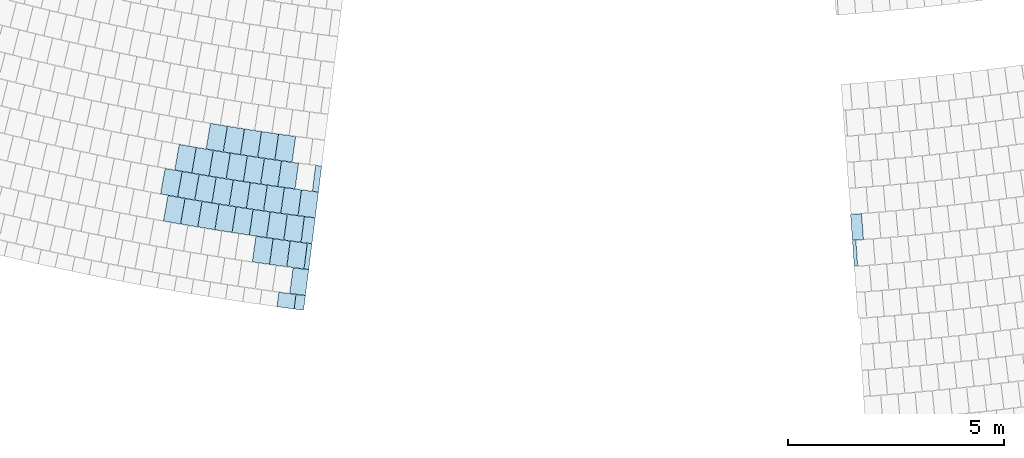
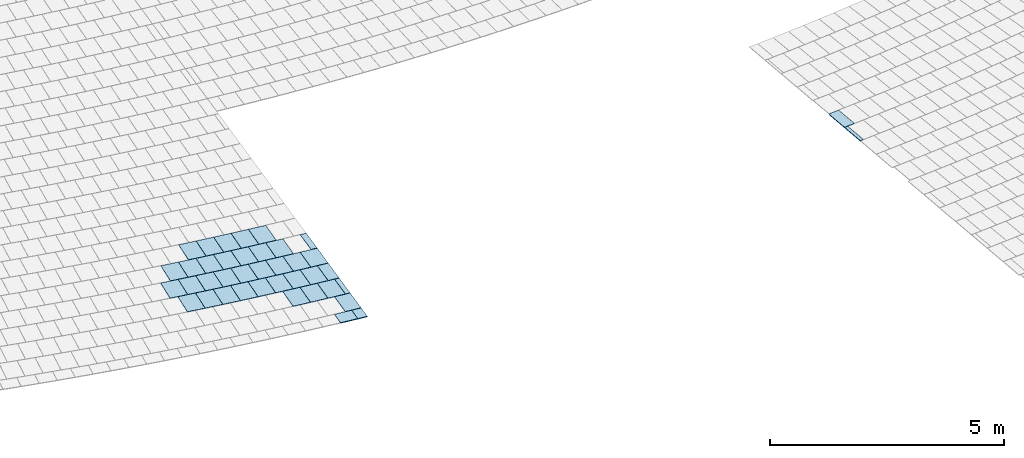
# One storey, part 33 of 438: 40 slabs.
"""IFC2X3 building model written with IfcOpenShell, lengths in millimetres."""

import ifcopenshell
import ifcopenshell.guid

model = None  # the IFC model being written
_history = None  # IfcOwnerHistory: only IFC2X3 demands one
_inside = {}  # id of a spatial element -> (the spatial element, [elements in it])
_under = {}  # id of a project, library or spatial element -> (it, [spatial elements below it])
_declared = {}  # id of a project -> (the project, [libraries it declares])
_typed = {}  # id of a type object -> (the type object, [elements of that type])
_made_of = {}  # id of a material, layer set ... -> (it, [elements and type objects made of it])


def new_model(schema):
    """Start an empty IFC model of exactly this schema.

    Asked for "IFC4X3", IfcOpenShell would pick the latest addendum, in which some entities
    have other attributes; the version numbers below select the first issue.
    IFC2X3 requires an IfcOwnerHistory on every rooted entity: one is made here for all.
    """
    global model, _history
    if schema == "IFC4X3":
        model = ifcopenshell.file(schema_version=(4, 3, 0, 0))
    else:
        model = ifcopenshell.file(schema=schema)
    _inside.clear()
    _under.clear()
    _declared.clear()
    _typed.clear()
    _made_of.clear()
    _history = None
    if model.schema == "IFC2X3":
        org = make("IfcOrganization", Name="unknown")
        user = make(
            "IfcPersonAndOrganization",
            ThePerson=make("IfcPerson", FamilyName="unknown"),
            TheOrganization=org,
        )
        app = make(
            "IfcApplication",
            ApplicationDeveloper=org,
            Version="unknown",
            ApplicationFullName="unknown",
            ApplicationIdentifier="unknown",
        )
        _history = make(
            "IfcOwnerHistory",
            OwningUser=user,
            OwningApplication=app,
            ChangeAction="ADDED",
            CreationDate=0,
        )
    return model


def make(cls, **values):
    """One entity of the class cls with the attributes given. An attribute that is None is left unset."""
    return model.create_entity(
        cls, **{name: value for name, value in values.items() if value is not None}
    )


def entity(cls, *values):
    """Any entity or typed value of the class cls, its attributes in the order of the schema. None: left unset."""
    e = model.create_entity(cls)
    for i, value in enumerate(values):
        if value is not None:
            e[i] = value
    return e


def rooted(cls, **values):
    """An entity with a GlobalId (a new one), such as an element, a storey or a relation."""
    return make(cls, GlobalId=ifcopenshell.guid.new(), OwnerHistory=_history, **values)


def si_unit(unit_type, name, prefix=None):
    """IfcSIUnit, for example si_unit("LENGTHUNIT", "METRE", prefix="MILLI")."""
    return make("IfcSIUnit", UnitType=unit_type, Prefix=prefix, Name=name)


def converted_unit(unit_type, name, factor, base, dimensions=None, offset=None):
    """IfcConversionBasedUnit, such as the inch: factor (a typed value) times the base unit."""
    return make(
        "IfcConversionBasedUnit"
        if offset is None
        else "IfcConversionBasedUnitWithOffset",
        ConversionOffset=offset,
        Dimensions=None
        if dimensions is None
        else entity("IfcDimensionalExponents", *dimensions),
        UnitType=unit_type,
        Name=name,
        ConversionFactor=make(
            "IfcMeasureWithUnit", ValueComponent=factor, UnitComponent=base
        ),
    )


def derived_unit(unit_type, elements):
    """IfcDerivedUnit: a product of units, each with its exponent."""
    return make(
        "IfcDerivedUnit",
        Elements=[
            make("IfcDerivedUnitElement", Unit=unit, Exponent=power)
            for unit, power in elements
        ],
        UnitType=unit_type,
    )


def assignment(units):
    """IfcUnitAssignment: the units of a project."""
    return None if units is None else make("IfcUnitAssignment", Units=units)


def point(xyz):
    """IfcCartesianPoint."""
    return None if xyz is None else make("IfcCartesianPoint", Coordinates=xyz)


def direction(xyz):
    """IfcDirection."""
    return None if xyz is None else make("IfcDirection", DirectionRatios=xyz)


def frame(location, z_axis=None, x_axis=None):
    """IfcAxis2Placement3D, a coordinate frame: its origin and axes. An axis left out is left unset."""
    return make(
        "IfcAxis2Placement3D",
        Location=point(location),
        Axis=direction(z_axis),
        RefDirection=direction(x_axis),
    )


def frame_2d(location, x_axis=None):
    """IfcAxis2Placement2D, a coordinate frame in the plane: its origin and x axis."""
    return make(
        "IfcAxis2Placement2D", Location=point(location), RefDirection=direction(x_axis)
    )


def origin():
    """The frame at (0, 0, 0) with its axes left unset."""
    return frame((0.0, 0.0, 0.0))


def origin_2d_with_axis():
    """The frame at (0, 0) in the plane with the x axis (1, 0) written out."""
    return frame_2d((0.0, 0.0), x_axis=(1.0, 0.0))


def place(relative_to, where):
    """IfcLocalPlacement: puts the frame where relative to a parent placement (None: the world)."""
    return make(
        "IfcLocalPlacement", PlacementRelTo=relative_to, RelativePlacement=where
    )


def context(
    kind, dimensions, precision=None, world=None, true_north=None, identifier=None
):
    """IfcGeometricRepresentationContext, for example the 3D "Model" context."""
    return make(
        "IfcGeometricRepresentationContext",
        ContextIdentifier=identifier,
        ContextType=kind,
        CoordinateSpaceDimension=dimensions,
        Precision=precision,
        WorldCoordinateSystem=world,
        TrueNorth=true_north,
    )


def subcontext(parent, identifier, kind, view, scale=None):
    """IfcGeometricRepresentationSubContext, for example "Body" below "Model"."""
    return make(
        "IfcGeometricRepresentationSubContext",
        ContextIdentifier=identifier,
        ContextType=kind,
        ParentContext=parent,
        TargetScale=scale,
        TargetView=view,
    )


def project(units=None, contexts=None):
    """IfcProject with its units and contexts."""
    return rooted(
        "IfcProject",
        Name="project",
        RepresentationContexts=contexts,
        UnitsInContext=assignment(units),
    )


def spatial(cls, under=None, at=None, **own):
    """A site, building, storey or space (cls), placed at a placement, below another one or the project."""
    s = rooted(cls, ObjectPlacement=at, **own)
    if under is not None:
        _under.setdefault(under.id(), (under, []))[1].append(s)
    return s


def polyline(points):
    """IfcPolyline through the points."""
    return make("IfcPolyline", Points=[point(p) for p in points])


def profile(cls, at=None, kind="AREA", **sizes):
    """A parametric profile (cls). Its sizes go by their IFC names, for example OverallWidth=200.0."""
    return make(cls, ProfileType=kind, Position=at, **sizes)


def rectangle(**sizes):
    """IfcRectangleProfileDef."""
    return profile("IfcRectangleProfileDef", **sizes)


def outline(outer, holes=None, kind="AREA"):
    """IfcArbitraryClosedProfileDef: a profile drawn as a closed curve; with holes, ...WithVoids."""
    if holes is None:
        return make("IfcArbitraryClosedProfileDef", ProfileType=kind, OuterCurve=outer)
    return make(
        "IfcArbitraryProfileDefWithVoids",
        ProfileType=kind,
        OuterCurve=outer,
        InnerCurves=holes,
    )


def extrude(swept, where, along, depth):
    """IfcExtrudedAreaSolid: the profile swept, set in the frame where, extruded along a direction by depth."""
    return make(
        "IfcExtrudedAreaSolid",
        SweptArea=swept,
        Position=where,
        ExtrudedDirection=direction(along),
        Depth=depth,
    )


def shape(context_of_items, identifier, shape_type, items):
    """IfcShapeRepresentation: the items that make up one representation, for example the "Body"."""
    return make(
        "IfcShapeRepresentation",
        ContextOfItems=context_of_items,
        RepresentationIdentifier=identifier,
        RepresentationType=shape_type,
        Items=items,
    )


def material(Name=None, Category=None):
    """IfcMaterial."""
    return make("IfcMaterial", Name=Name, Category=Category)


def layer(
    of_material, thickness, ventilated=None, Name=None, Category=None, Priority=None
):
    """IfcMaterialLayer: one layer of a wall or slab, of a material (None: an air gap)."""
    return make(
        "IfcMaterialLayer",
        Material=of_material,
        LayerThickness=thickness,
        IsVentilated=ventilated,
        Name=Name,
        Category=Category,
        Priority=Priority,
    )


def layer_set(layers, Name=None):
    """IfcMaterialLayerSet."""
    return make("IfcMaterialLayerSet", MaterialLayers=layers, LayerSetName=Name)


def layer_usage(for_layer_set, set_direction, sense, offset, extent=None):
    """IfcMaterialLayerSetUsage: how a layer set lies in its element."""
    return make(
        "IfcMaterialLayerSetUsage",
        ForLayerSet=for_layer_set,
        LayerSetDirection=set_direction,
        DirectionSense=sense,
        OffsetFromReferenceLine=offset,
        ReferenceExtent=extent,
    )


def made_of(thing, what):
    """Note that an element or type object is made of a material, layer set ...; save() writes the relation."""
    if what is not None:
        _made_of.setdefault(what.id(), (what, []))[1].append(thing)
    return thing


def type_object(cls, material=None, **own):
    """A type object (cls), such as IfcWallType, which elements share."""
    return made_of(rooted(cls, **own), material)


def element(
    cls,
    number,
    at=None,
    inside=None,
    cuts=None,
    type_object=None,
    material=None,
    context=None,
    identifier="Body",
    shape_type=None,
    held_by="IfcProductDefinitionShape",
    body=None,
    shapes=None,
    **own,
):
    """One element of the class cls, such as IfcWall. Its Tag is "e" and its number.

    at: its placement. inside: the storey or other place that contains it. cuts: it is an
    opening in that element (IfcRelVoidsElement). A single representation is given by context,
    identifier, shape_type and body (its items); several are given by shapes. held_by: the class
    of the entity that holds the representations. save() writes the other relations.
    """
    e = rooted(cls, Tag="e%d" % number, ObjectPlacement=at, **own)
    if body is not None:
        shapes = [shape(context, identifier, shape_type, body)]
    if shapes is not None:
        e.Representation = make(held_by, Representations=shapes)
    if inside is not None:
        _inside.setdefault(inside.id(), (inside, []))[1].append(e)
    if cuts is not None:
        rooted(
            "IfcRelVoidsElement", RelatingBuildingElement=cuts, RelatedOpeningElement=e
        )
    if type_object is not None:
        _typed.setdefault(type_object.id(), (type_object, []))[1].append(e)
    return made_of(e, material)


def aggregate(whole, parts):
    """IfcRelAggregates: a whole, such as a stair, and the parts it consists of."""
    return rooted("IfcRelAggregates", RelatingObject=whole, RelatedObjects=parts)


def save(model, path):
    """Write the relations noted so far, then the file.

    IfcRelAggregates (storeys below a building ...), IfcRelContainedInSpatialStructure (elements
    in a storey), IfcRelDefinesByType, IfcRelAssociatesMaterial and IfcRelDeclares: one each for
    every whole, place, type object, material and project.
    """
    for whole, parts in _under.values():
        aggregate(whole, parts)
    for where, things in _inside.values():
        rooted(
            "IfcRelContainedInSpatialStructure",
            RelatedElements=things,
            RelatingStructure=where,
        )
    for kind, things in _typed.values():
        rooted("IfcRelDefinesByType", RelatedObjects=things, RelatingType=kind)
    for what, things in _made_of.values():
        rooted("IfcRelAssociatesMaterial", RelatedObjects=things, RelatingMaterial=what)
    for by, libraries in _declared.values():
        rooted("IfcRelDeclares", RelatingContext=by, RelatedDefinitions=libraries)
    model.write(path)


model = new_model("IFC2X3")

# Units and contexts
model_context = context("Model", 3, precision=0.01, world=origin(), true_north=direction((6.123031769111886e-17, 1.0)))
body_context = subcontext(model_context, "Body", "Model", "MODEL_VIEW")
ifc_project = project(units=[si_unit("LENGTHUNIT", "METRE", prefix="MILLI"), si_unit("AREAUNIT", "SQUARE_METRE"), si_unit("VOLUMEUNIT", "CUBIC_METRE"), converted_unit("PLANEANGLEUNIT", "DEGREE", entity("IfcRatioMeasure", 0.017453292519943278), si_unit("PLANEANGLEUNIT", "RADIAN"), dimensions=[0, 0, 0, 0, 0, 0, 0]), si_unit("MASSUNIT", "GRAM", prefix="KILO"), derived_unit("MASSDENSITYUNIT", [(si_unit("MASSUNIT", "GRAM", prefix="KILO"), 1), (si_unit("LENGTHUNIT", "METRE"), -3)]), derived_unit("MOMENTOFINERTIAUNIT", [(si_unit("LENGTHUNIT", "METRE"), 4)]), si_unit("TIMEUNIT", "SECOND"), si_unit("FREQUENCYUNIT", "HERTZ"), si_unit("THERMODYNAMICTEMPERATUREUNIT", "DEGREE_CELSIUS"), derived_unit("THERMALTRANSMITTANCEUNIT", [(si_unit("MASSUNIT", "GRAM", prefix="KILO"), 1), (si_unit("THERMODYNAMICTEMPERATUREUNIT", "KELVIN"), -1), (si_unit("TIMEUNIT", "SECOND"), -3)]), derived_unit("THERMALCONDUCTANCEUNIT", [(si_unit("MASSUNIT", "GRAM", prefix="KILO"), 1), (si_unit("LENGTHUNIT", "METRE"), 1), (si_unit("THERMODYNAMICTEMPERATUREUNIT", "KELVIN"), -1), (si_unit("TIMEUNIT", "SECOND"), -3)]), derived_unit("VOLUMETRICFLOWRATEUNIT", [(si_unit("LENGTHUNIT", "METRE"), 3), (si_unit("TIMEUNIT", "SECOND"), -1)]), derived_unit("MASSFLOWRATEUNIT", [(si_unit("MASSUNIT", "GRAM", prefix="KILO"), 1), (si_unit("TIMEUNIT", "SECOND"), -1)]), derived_unit("ROTATIONALFREQUENCYUNIT", [(si_unit("TIMEUNIT", "SECOND"), -1)]), si_unit("ELECTRICCURRENTUNIT", "AMPERE"), si_unit("ELECTRICVOLTAGEUNIT", "VOLT"), si_unit("POWERUNIT", "WATT"), converted_unit("FORCEUNIT", "KIP", entity("IfcRatioMeasure", 2.088543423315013e-05), si_unit("FORCEUNIT", "NEWTON"), dimensions=[1, 1, -2, 0, 0, 0, 0]), si_unit("ILLUMINANCEUNIT", "LUX"), si_unit("LUMINOUSFLUXUNIT", "LUMEN"), si_unit("LUMINOUSINTENSITYUNIT", "CANDELA"), derived_unit("USERDEFINED", [(si_unit("MASSUNIT", "GRAM", prefix="KILO"), -1), (si_unit("LENGTHUNIT", "METRE"), -2), (si_unit("TIMEUNIT", "SECOND"), 3), (si_unit("LUMINOUSFLUXUNIT", "LUMEN"), 1)]), derived_unit("USERDEFINED", [(si_unit("MASSUNIT", "GRAM", prefix="KILO"), 1), (si_unit("LENGTHUNIT", "METRE"), 3), (si_unit("TIMEUNIT", "SECOND"), -3), (si_unit("ELECTRICCURRENTUNIT", "AMPERE"), -2)]), derived_unit("USERDEFINED", [(si_unit("LENGTHUNIT", "METRE"), 2), (si_unit("TIMEUNIT", "SECOND"), -2)]), derived_unit("SOUNDPOWERUNIT", [(si_unit("MASSUNIT", "GRAM", prefix="KILO"), 1), (si_unit("LENGTHUNIT", "METRE"), 2), (si_unit("TIMEUNIT", "SECOND"), -3)]), derived_unit("SOUNDPRESSUREUNIT", [(si_unit("MASSUNIT", "GRAM", prefix="KILO"), 1), (si_unit("LENGTHUNIT", "METRE"), -1), (si_unit("TIMEUNIT", "SECOND"), -2)]), derived_unit("LINEARVELOCITYUNIT", [(si_unit("LENGTHUNIT", "METRE"), 1), (si_unit("TIMEUNIT", "SECOND"), -1)]), si_unit("PRESSUREUNIT", "PASCAL"), derived_unit("USERDEFINED", [(si_unit("LENGTHUNIT", "METRE"), -2), (si_unit("MASSUNIT", "GRAM", prefix="KILO"), 1), (si_unit("TIMEUNIT", "SECOND"), -2)]), derived_unit("LINEARFORCEUNIT", [(si_unit("MASSUNIT", "GRAM", prefix="KILO"), 1), (si_unit("LENGTHUNIT", "METRE"), 1), (si_unit("TIMEUNIT", "SECOND"), -2), (si_unit("LENGTHUNIT", "METRE"), -1)]), derived_unit("PLANARFORCEUNIT", [(si_unit("MASSUNIT", "GRAM", prefix="KILO"), 1), (si_unit("LENGTHUNIT", "METRE"), 1), (si_unit("TIMEUNIT", "SECOND"), -2), (si_unit("LENGTHUNIT", "METRE"), -2)]), derived_unit("SPECIFICHEATCAPACITYUNIT", [(si_unit("LENGTHUNIT", "METRE"), 2), (si_unit("TIMEUNIT", "SECOND"), -2), (si_unit("THERMODYNAMICTEMPERATUREUNIT", "KELVIN"), -1)]), derived_unit("VAPORPERMEABILITYUNIT", [(si_unit("TIMEUNIT", "SECOND"), 1), (si_unit("LENGTHUNIT", "METRE"), -1)]), derived_unit("DYNAMICVISCOSITYUNIT", [(si_unit("MASSUNIT", "GRAM", prefix="KILO"), 1), (si_unit("LENGTHUNIT", "METRE"), -1), (si_unit("TIMEUNIT", "SECOND"), -1)]), derived_unit("THERMALEXPANSIONCOEFFICIENTUNIT", [(si_unit("THERMODYNAMICTEMPERATUREUNIT", "KELVIN"), -1)])], contexts=[model_context])

# Site, building, storey
site_placement = place(None, frame((0.0, 0.0, 0.0), z_axis=(0.0, 0.0, 1.0), x_axis=(0.8191520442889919, 0.5735764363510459, 0.0)))
site = spatial("IfcSite", under=ifc_project, at=site_placement, Name="Default", CompositionType="ELEMENT")
building_placement = place(site_placement, origin())
building = spatial("IfcBuilding", under=site, at=building_placement, CompositionType="ELEMENT")
storey_placement = place(building_placement, origin())
storey = spatial("IfcBuildingStorey", under=building, at=storey_placement, Name="PLAN", CompositionType="ELEMENT", Elevation=0.0)

# Slabs
ifc_material = material(Name="Paint-01")
ifc_layer = layer(ifc_material, 20.00000000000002)
ifc_layer_set = layer_set([ifc_layer], Name="Floor:Slab-179:1000")
ifc_layer_usage = layer_usage(ifc_layer_set, "AXIS3", "POSITIVE", 0.0)
slab_type = type_object("IfcSlabType", Name="Floor:Slab-179:1000", PredefinedType="FLOOR", material=ifc_layer_set)
slab_1_placement = place(storey_placement, origin())
element("IfcSlab", 1, at=slab_1_placement, inside=storey, type_object=slab_type, material=ifc_layer_usage, Name="Floor:Slab-179:1000", ObjectType="Floor:Slab-179:1000", PredefinedType="FLOOR", context=body_context, shape_type="SweptSolid", body=[
    extrude(outline(polyline([(-300.0, -39.397015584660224), (300.0, -39.397015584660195), (300.0, 38.82739403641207), (-300.0, 39.96663713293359), (-300.0, -39.397015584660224)])), frame((-73040.18399397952, -122760.55751204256, 20.0), z_axis=(0.0, 0.0, -1.0), x_axis=(-0.5146982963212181, -0.8573713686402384, 0.0)), (0.0, 0.0, 1.0), 20.00000000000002),
])
slab_2_placement = place(storey_placement, origin())
element("IfcSlab", 2, at=slab_2_placement, inside=storey, type_object=slab_type, material=ifc_layer_usage, Name="Floor:Slab-179:1000", ObjectType="Floor:Slab-179:1000", PredefinedType="FLOOR", context=body_context, shape_type="SweptSolid", body=[
    extrude(outline(polyline([(-300.0000006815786, -128.00995414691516), (299.99999931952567, -128.0099541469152), (300.0000006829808, 128.27574525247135), (-299.9999993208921, 127.74416304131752), (-300.0000006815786, -128.00995414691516)])), frame((-72653.57342718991, -122286.48309528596, 20.0), z_axis=(0.0, 0.0, -1.0), x_axis=(-0.5123087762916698, -0.8588013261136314, 0.0)), (0.0, 0.0, 1.0), 20.00000000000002),
])
slab_3_placement = place(storey_placement, origin())
element("IfcSlab", 3, at=slab_3_placement, inside=storey, type_object=slab_type, material=ifc_layer_usage, Name="Floor:Slab-179:1000", ObjectType="Floor:Slab-179:1000", PredefinedType="FLOOR", context=body_context, shape_type="SweptSolid", body=[
    extrude(outline(polyline([(-299.999997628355, -200.00000294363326), (300.0, -200.0000029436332), (299.9999976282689, 200.0000029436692), (-300.0, 200.00000294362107), (-299.999997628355, -200.00000294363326)])), frame((-83626.46695168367, -112073.13883042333, 520.0), z_axis=(0.0, 0.0, -1.0), x_axis=(-0.7004343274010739, -0.7137168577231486, 0.0)), (0.0, 0.0, 1.0), 20.000000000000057),
])
slab_4_placement = place(storey_placement, origin())
element("IfcSlab", 4, at=slab_4_placement, inside=storey, type_object=slab_type, material=ifc_layer_usage, Name="Floor:Slab-179:1000", ObjectType="Floor:Slab-179:1000", PredefinedType="FLOOR", context=body_context, shape_type="SweptSolid", body=[
    extrude(outline(polyline([(-299.9999976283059, -200.00000294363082), (300.0, -200.0000029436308), (299.99999762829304, 200.00000294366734), (-300.0, 200.00000294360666), (-299.9999976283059, -200.00000294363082)])), frame((-83338.67598834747, -112353.74318607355, 520.0), z_axis=(0.0, 0.0, -1.0), x_axis=(-0.6957793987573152, -0.7182555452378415, 0.0)), (0.0, 0.0, 1.0), 20.000000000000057),
])
slab_5_placement = place(storey_placement, origin())
element("IfcSlab", 5, at=slab_5_placement, inside=storey, type_object=slab_type, material=ifc_layer_usage, Name="Floor:Slab-179:1000", ObjectType="Floor:Slab-179:1000", PredefinedType="FLOOR", context=body_context, shape_type="SweptSolid", body=[
    extrude(outline(polyline([(-299.9999976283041, -200.00000294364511), (300.0, -200.00000294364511), (299.9999976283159, 200.0000029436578), (-300.0, 200.00000294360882), (-299.9999976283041, -200.00000294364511)])), frame((-82464.44278382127, -113184.24744115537, 520.0), z_axis=(0.0, 0.0, -1.0), x_axis=(-0.68163895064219, -0.7316886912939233, 0.0)), (0.0, 0.0, 1.0), 20.000000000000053),
])
slab_6_placement = place(storey_placement, origin())
element("IfcSlab", 6, at=slab_6_placement, inside=storey, type_object=slab_type, material=ifc_layer_usage, Name="Floor:Slab-179:1000", ObjectType="Floor:Slab-179:1000", PredefinedType="FLOOR", context=body_context, shape_type="SweptSolid", body=[
    extrude(outline(polyline([(-299.99999762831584, -200.0000029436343), (300.0, -200.00000294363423), (299.9999976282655, 200.0000029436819), (-300.0, 200.00000294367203), (-299.99999762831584, -200.0000029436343)])), frame((-82757.6516250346, -112909.3092327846, 520.0), z_axis=(0.0, 0.0, -1.0), x_axis=(-0.6863815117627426, -0.7272416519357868, 0.0)), (0.0, 0.0, 1.0), 20.000000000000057),
])
slab_7_placement = place(storey_placement, origin())
element("IfcSlab", 7, at=slab_7_placement, inside=storey, type_object=slab_type, material=ifc_layer_usage, Name="Floor:Slab-179:1000", ObjectType="Floor:Slab-179:1000", PredefinedType="FLOOR", context=body_context, shape_type="SweptSolid", body=[
    extrude(outline(polyline([(-299.9999976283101, -200.0000029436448), (300.0, -200.00000294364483), (299.99999762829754, 200.00000294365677), (-300.0, 200.00000294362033), (-299.9999976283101, -200.0000029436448)])), frame((-83049.06679905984, -112632.47058061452, 520.0), z_axis=(0.0, 0.0, -1.0), x_axis=(-0.6910950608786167, -0.7227638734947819, 0.0)), (0.0, 0.0, 1.0), 20.000000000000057),
])
slab_8_placement = place(storey_placement, origin())
element("IfcSlab", 8, at=slab_8_placement, inside=storey, type_object=slab_type, material=ifc_layer_usage, Name="Floor:Slab-179:1000", ObjectType="Floor:Slab-179:1000", PredefinedType="FLOOR", context=body_context, shape_type="SweptSolid", body=[
    extrude(outline(polyline([(-299.99999762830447, -200.00000294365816), (300.0, -200.00000294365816), (299.99999762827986, 200.00000294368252), (-300.0, 200.00000294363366), (-299.99999762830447, -200.00000294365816)])), frame((-84215.92465659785, -112341.71920835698, 520.0), z_axis=(0.0, 0.0, -1.0), x_axis=(-0.7030884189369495, -0.7111024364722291, 0.0)), (0.0, 0.0, 1.0), 20.000000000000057),
])
slab_9_placement = place(storey_placement, origin())
element("IfcSlab", 9, at=slab_9_placement, inside=storey, type_object=slab_type, material=ifc_layer_usage, Name="Floor:Slab-179:1000", ObjectType="Floor:Slab-179:1000", PredefinedType="FLOOR", context=body_context, shape_type="SweptSolid", body=[
    extrude(outline(polyline([(-299.99999762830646, -200.00000294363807), (300.0, -200.00000294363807), (299.9999976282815, 200.00000294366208), (-300.0, 200.0000029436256), (-299.99999762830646, -200.00000294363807)])), frame((-83640.67491337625, -112903.20818490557, 520.0), z_axis=(0.0, 0.0, -1.0), x_axis=(-0.6938741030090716, -0.720096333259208, 0.0)), (0.0, 0.0, 1.0), 20.000000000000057),
])
slab_10_placement = place(storey_placement, origin())
element("IfcSlab", 10, at=slab_10_placement, inside=storey, type_object=slab_type, material=ifc_layer_usage, Name="Floor:Slab-179:1000", ObjectType="Floor:Slab-179:1000", PredefinedType="FLOOR", context=body_context, shape_type="SweptSolid", body=[
    extrude(rectangle(XDim=599.9998189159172, YDim=399.9998869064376, at=origin_2d_with_axis()), frame((-84500.55375182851, -112058.26329058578, 520.0), z_axis=(0.0, 0.0, -1.0), x_axis=(-0.7071067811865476, -0.7071067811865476, 0.0)), (0.0, 0.0, 1.0), 19.999999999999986),
])
slab_11_placement = place(storey_placement, origin())
element("IfcSlab", 11, at=slab_11_placement, inside=storey, type_object=slab_type, material=ifc_layer_usage, Name="Floor:Slab-179:1000", ObjectType="Floor:Slab-179:1000", PredefinedType="FLOOR", context=body_context, shape_type="SweptSolid", body=[
    extrude(outline(polyline([(-299.9999976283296, -200.0000029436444), (300.0, -200.00000294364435), (299.99999762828, 200.00000294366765), (-300.0, 200.00000294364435), (-299.9999976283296, -200.0000029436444)])), frame((-83350.35080353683, -113181.16343256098, 520.0), z_axis=(0.0, 0.0, -1.0), x_axis=(-0.6892237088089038, -0.7245486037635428, 0.0)), (0.0, 0.0, 1.0), 20.000000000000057),
])
slab_12_placement = place(storey_placement, origin())
element("IfcSlab", 12, at=slab_12_placement, inside=storey, type_object=slab_type, material=ifc_layer_usage, Name="Floor:Slab-179:1000", ObjectType="Floor:Slab-179:1000", PredefinedType="FLOOR", context=body_context, shape_type="SweptSolid", body=[
    extrude(outline(polyline([(-299.99999762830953, -200.00000294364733), (300.0, -200.00000294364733), (299.9999976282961, 200.00000294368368), (-300.0, 200.00000294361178), (-299.99999762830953, -200.00000294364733)])), frame((-83058.24322154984, -113457.24379948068, 520.0), z_axis=(0.0, 0.0, -1.0), x_axis=(-0.6845447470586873, -0.728970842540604, 0.0)), (0.0, 0.0, 1.0), 19.99999999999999),
])
slab_13_placement = place(storey_placement, origin())
element("IfcSlab", 13, at=slab_13_placement, inside=storey, type_object=slab_type, material=ifc_layer_usage, Name="Floor:Slab-179:1000", ObjectType="Floor:Slab-179:1000", PredefinedType="FLOOR", context=body_context, shape_type="SweptSolid", body=[
    extrude(outline(polyline([(-299.9999976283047, -200.0000029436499), (300.0, -200.00000294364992), (299.99999762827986, 200.00000294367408), (-300.0, 200.0000029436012), (-299.9999976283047, -200.0000029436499)])), frame((-83929.20351745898, -112623.38957744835, 520.0), z_axis=(0.0, 0.0, -1.0), x_axis=(-0.6984957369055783, -0.7156142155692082, 0.0)), (0.0, 0.0, 1.0), 20.000000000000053),
])
slab_14_placement = place(storey_placement, origin())
element("IfcSlab", 14, at=slab_14_placement, inside=storey, type_object=slab_type, material=ifc_layer_usage, Name="Floor:Slab-179:1000", ObjectType="Floor:Slab-179:1000", PredefinedType="FLOOR", context=body_context, shape_type="SweptSolid", body=[
    extrude(outline(polyline([(-299.99999762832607, -200.00000294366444), (300.0, -200.00000294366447), (299.99999762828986, 200.0000029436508), (-300.0, 200.00000294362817), (-299.99999762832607, -200.00000294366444)])), frame((-82764.36427494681, -113731.43784244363, 520.0), z_axis=(0.0, 0.0, -1.0), x_axis=(-0.6798374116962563, -0.7333628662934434, 0.0)), (0.0, 0.0, 1.0), 20.000000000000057),
])
slab_15_placement = place(storey_placement, origin())
element("IfcSlab", 15, at=slab_15_placement, inside=storey, type_object=slab_type, material=ifc_layer_usage, Name="Floor:Slab-179:1000", ObjectType="Floor:Slab-179:1000", PredefinedType="FLOOR", context=body_context, shape_type="SweptSolid", body=[
    extrude(outline(polyline([(-300.06706613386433, -70.26634917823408), (299.9332034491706, -70.26634917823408), (300.066793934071, 69.98058642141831), (-299.9329312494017, 70.55211193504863), (-300.06706613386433, -70.26634917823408)])), frame((-82267.61063723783, -114187.15614575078, 520.0), z_axis=(0.0, 0.0, -1.0), x_axis=(-0.6710449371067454, -0.7414166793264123, 0.0)), (0.0, 0.0, 1.0), 20.000000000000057),
])
slab_16_placement = place(storey_placement, origin())
element("IfcSlab", 16, at=slab_16_placement, inside=storey, type_object=slab_type, material=ifc_layer_usage, Name="Floor:Slab-179:1000", ObjectType="Floor:Slab-179:1000", PredefinedType="FLOOR", context=body_context, shape_type="SweptSolid", body=[
    extrude(rectangle(XDim=599.99878156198, YDim=399.99919534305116, at=frame_2d((-1.2249756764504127e-11, 1.2249756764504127e-11), x_axis=(1.0, 0.0))), frame((-84805.48135254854, -112609.5680734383, 520.0), z_axis=(0.0, 0.0, -1.0), x_axis=(-0.7071067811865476, -0.7071067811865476, 0.0)), (0.0, 0.0, 1.0), 19.999999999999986),
])
slab_17_placement = place(storey_placement, origin())
element("IfcSlab", 17, at=slab_17_placement, inside=storey, type_object=slab_type, material=ifc_layer_usage, Name="Floor:Slab-179:1000", ObjectType="Floor:Slab-179:1000", PredefinedType="FLOOR", context=body_context, shape_type="SweptSolid", body=[
    extrude(outline(polyline([(-299.9999976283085, -200.0000029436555), (300.0, -200.00000294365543), (299.9999976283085, 200.0000029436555), (-300.0, 200.00000294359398), (-299.9999976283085, -200.0000029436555)])), frame((-85088.62934820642, -112325.18290119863, 520.0), z_axis=(0.0, 0.0, -1.0), x_axis=(-0.71018505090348, -0.7040150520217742, 0.0)), (0.0, 0.0, 1.0), 20.000000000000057),
])
slab_18_placement = place(storey_placement, origin())
element("IfcSlab", 18, at=slab_18_placement, inside=storey, type_object=slab_type, material=ifc_layer_usage, Name="Floor:Slab-179:1000", ObjectType="Floor:Slab-179:1000", PredefinedType="FLOOR", context=body_context, shape_type="SweptSolid", body=[
    extrude(outline(polyline([(-299.99999762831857, -200.00000294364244), (300.0, -200.00000294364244), (299.9999976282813, 200.00000294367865), (-300.0, 200.00000294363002), (-299.99999762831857, -200.00000294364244)])), frame((-84231.63661814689, -113173.30699187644, 520.0), z_axis=(0.0, 0.0, -1.0), x_axis=(-0.6965895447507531, -0.7174698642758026, 0.0)), (0.0, 0.0, 1.0), 20.000000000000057),
])
slab_19_placement = place(storey_placement, origin())
element("IfcSlab", 19, at=slab_19_placement, inside=storey, type_object=slab_type, material=ifc_layer_usage, Name="Floor:Slab-179:1000", ObjectType="Floor:Slab-179:1000", PredefinedType="FLOOR", context=body_context, shape_type="SweptSolid", body=[
    extrude(outline(polyline([(-299.99999762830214, -200.0000029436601), (300.0, -200.00000294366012), (299.99999762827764, 200.0000029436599), (-300.0, 200.00000294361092), (-299.99999762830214, -200.0000029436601)])), frame((-84519.10148586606, -112892.42228605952, 520.0), z_axis=(0.0, 0.0, -1.0), x_axis=(-0.7011499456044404, -0.7130138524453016, 0.0)), (0.0, 0.0, 1.0), 19.99999999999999),
])
slab_20_placement = place(storey_placement, origin())
element("IfcSlab", 20, at=slab_20_placement, inside=storey, type_object=slab_type, material=ifc_layer_usage, Name="Floor:Slab-179:1000", ObjectType="Floor:Slab-179:1000", PredefinedType="FLOOR", context=body_context, shape_type="SweptSolid", body=[
    extrude(outline(polyline([(-299.99999762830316, -200.00000294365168), (300.0, -200.00000294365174), (299.9999976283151, 200.00000294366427), (-300.0, 200.000002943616), (-299.99999762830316, -200.00000294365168)])), frame((-83651.36344110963, -113729.54933629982, 520.0), z_axis=(0.0, 0.0, -1.0), x_axis=(-0.6873839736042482, -0.7262942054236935, 0.0)), (0.0, 0.0, 1.0), 20.000000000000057),
])
slab_21_placement = place(storey_placement, origin())
element("IfcSlab", 21, at=slab_21_placement, inside=storey, type_object=slab_type, material=ifc_layer_usage, Name="Floor:Slab-179:1000", ObjectType="Floor:Slab-179:1000", PredefinedType="FLOOR", context=body_context, shape_type="SweptSolid", body=[
    extrude(outline(polyline([(-299.99999762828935, -200.00000294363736), (300.0, -200.00000294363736), (299.9999976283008, 200.00000294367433), (-300.0, 200.00000294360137), (-299.99999762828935, -200.00000294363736)])), frame((-83942.38668357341, -113452.3531233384, 520.0), z_axis=(0.0, 0.0, -1.0), x_axis=(-0.6920008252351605, -0.7218967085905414, 0.0)), (0.0, 0.0, 1.0), 20.000000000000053),
])
slab_22_placement = place(storey_placement, origin())
element("IfcSlab", 22, at=slab_22_placement, inside=storey, type_object=slab_type, material=ifc_layer_usage, Name="Floor:Slab-179:1000", ObjectType="Floor:Slab-179:1000", PredefinedType="FLOOR", context=body_context, shape_type="SweptSolid", body=[
    extrude(outline(polyline([(-299.9999976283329, -200.0000029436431), (300.0, -200.00000294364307), (299.9999976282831, 200.00000294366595), (-300.0, 200.0000029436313), (-299.9999976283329, -200.0000029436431)])), frame((-83358.5787218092, -114004.88436182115, 520.0), z_axis=(0.0, 0.0, -1.0), x_axis=(-0.6827391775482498, -0.7306621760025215, 0.0)), (0.0, 0.0, 1.0), 19.999999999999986),
])
slab_23_placement = place(storey_placement, origin())
element("IfcSlab", 23, at=slab_23_placement, inside=storey, type_object=slab_type, material=ifc_layer_usage, Name="Floor:Slab-179:1000", ObjectType="Floor:Slab-179:1000", PredefinedType="FLOOR", context=body_context, shape_type="SweptSolid", body=[
    extrude(outline(polyline([(-299.9999976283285, -200.00000294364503), (300.0, -200.00000294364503), (299.9999976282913, 200.0000029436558), (-300.0, 200.00000294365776), (-299.9999976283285, -200.00000294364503)])), frame((-83064.04442833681, -114278.34700662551, 520.0), z_axis=(0.0, 0.0, -1.0), x_axis=(-0.6780666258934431, -0.7350004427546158, 0.0)), (0.0, 0.0, 1.0), 20.000000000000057),
])
slab_24_placement = place(storey_placement, origin())
element("IfcSlab", 24, at=slab_24_placement, inside=storey, type_object=slab_type, material=ifc_layer_usage, Name="Floor:Slab-179:1000", ObjectType="Floor:Slab-179:1000", PredefinedType="FLOOR", context=body_context, shape_type="SweptSolid", body=[
    extrude(outline(polyline([(-299.3779974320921, -198.82938237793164), (300.6249497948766, -198.82938237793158), (299.3750476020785, 199.77009654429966), (-300.6219999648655, 197.88866821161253), (-299.3779974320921, -198.82938237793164)])), frame((-82768.63726190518, -114549.13855509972, 520.0), z_axis=(0.0, 0.0, -1.0), x_axis=(-0.6710449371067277, -0.7414166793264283, 0.0)), (0.0, 0.0, 1.0), 19.999999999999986),
])
slab_25_placement = place(storey_placement, origin())
element("IfcSlab", 25, at=slab_25_placement, inside=storey, type_object=slab_type, material=ifc_layer_usage, Name="Floor:Slab-179:1000", ObjectType="Floor:Slab-179:1000", PredefinedType="FLOOR", context=body_context, shape_type="SweptSolid", body=[
    extrude(outline(polyline([(-299.99999762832, -200.00000294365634), (300.0, -200.0000029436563), (299.9999976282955, 200.00000294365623), (-300.0, 200.0000029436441), (-299.99999762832, -200.00000294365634)])), frame((-85108.38574964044, -113160.86120204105, 520.0), z_axis=(0.0, 0.0, -1.0), x_axis=(-0.7037440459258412, -0.7104536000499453, 0.0)), (0.0, 0.0, 1.0), 20.000000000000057),
])
slab_26_placement = place(storey_placement, origin())
element("IfcSlab", 26, at=slab_26_placement, inside=storey, type_object=slab_type, material=ifc_layer_usage, Name="Floor:Slab-179:1000", ObjectType="Floor:Slab-179:1000", PredefinedType="FLOOR", context=body_context, shape_type="SweptSolid", body=[
    extrude(outline(polyline([(-299.99999762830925, -200.000002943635), (300.0, -200.000002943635), (299.99999762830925, 200.000002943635), (-300.0, 200.00000294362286), (-299.99999762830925, -200.000002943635)])), frame((-84821.96812404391, -113442.78771256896, 520.0), z_axis=(0.0, 0.0, -1.0), x_axis=(-0.6992434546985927, -0.7148836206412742, 0.0)), (0.0, 0.0, 1.0), 20.000000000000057),
])
slab_27_placement = place(storey_placement, origin())
element("IfcSlab", 27, at=slab_27_placement, inside=storey, type_object=slab_type, material=ifc_layer_usage, Name="Floor:Slab-179:1000", ObjectType="Floor:Slab-179:1000", PredefinedType="FLOOR", context=body_context, shape_type="SweptSolid", body=[
    extrude(rectangle(XDim=599.9992572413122, YDim=399.9995124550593, at=frame_2d((0.0, 1.2249756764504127e-11), x_axis=(1.0, 0.0))), frame((-85392.46194858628, -112877.24263366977, 520.0), z_axis=(0.0, 0.0, -1.0), x_axis=(-0.7071067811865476, -0.7071067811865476, 0.0)), (0.0, 0.0, 1.0), 19.999999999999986),
])
slab_28_placement = place(storey_placement, origin())
element("IfcSlab", 28, at=slab_28_placement, inside=storey, type_object=slab_type, material=ifc_layer_usage, Name="Floor:Slab-179:1000", ObjectType="Floor:Slab-179:1000", PredefinedType="FLOOR", context=body_context, shape_type="SweptSolid", body=[
    extrude(outline(polyline([(-299.9999976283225, -200.00000294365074), (300.0, -200.0000029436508), (299.99999762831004, 200.0000029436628), (-300.0, 200.00000294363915), (-299.9999976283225, -200.00000294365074)])), frame((-84533.77582632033, -113722.89985640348, 520.0), z_axis=(0.0, 0.0, -1.0), x_axis=(-0.6947149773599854, -0.7192851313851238, 0.0)), (0.0, 0.0, 1.0), 20.000000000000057),
])
slab_29_placement = place(storey_placement, origin())
element("IfcSlab", 29, at=slab_29_placement, inside=storey, type_object=slab_type, material=ifc_layer_usage, Name="Floor:Slab-179:1000", ObjectType="Floor:Slab-179:1000", PredefinedType="FLOOR", context=body_context, shape_type="SweptSolid", body=[
    extrude(outline(polyline([(-299.9999976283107, -200.0000029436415), (300.0, -200.00000294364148), (299.9999976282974, 200.00000294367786), (-300.0, 200.0000029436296), (-299.9999976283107, -200.0000029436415)])), frame((-83952.11325770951, -114277.63643285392, 520.0), z_axis=(0.0, 0.0, -1.0), x_axis=(-0.6855750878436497, -0.7280019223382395, 0.0)), (0.0, 0.0, 1.0), 20.000000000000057),
])
slab_30_placement = place(storey_placement, origin())
element("IfcSlab", 30, at=slab_30_placement, inside=storey, type_object=slab_type, material=ifc_layer_usage, Name="Floor:Slab-179:1000", ObjectType="Floor:Slab-179:1000", PredefinedType="FLOOR", context=body_context, shape_type="SweptSolid", body=[
    extrude(outline(polyline([(-299.9999976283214, -200.00000294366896), (300.0, -200.00000294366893), (299.9999976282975, 200.0000029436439), (-300.0, 200.00000294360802), (-299.9999976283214, -200.00000294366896)])), frame((-84243.82034969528, -114001.18646255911, 520.0), z_axis=(0.0, 0.0, -1.0), x_axis=(-0.6901587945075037, -0.7236579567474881, 0.0)), (0.0, 0.0, 1.0), 20.000000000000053),
])
slab_31_placement = place(storey_placement, origin())
element("IfcSlab", 31, at=slab_31_placement, inside=storey, type_object=slab_type, material=ifc_layer_usage, Name="Floor:Slab-179:1000", ObjectType="Floor:Slab-179:1000", PredefinedType="FLOOR", context=body_context, shape_type="SweptSolid", body=[
    extrude(outline(polyline([(-299.99999762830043, -200.0000029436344), (300.0, -200.00000294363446), (299.9999976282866, 200.0000029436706), (-300.0, 200.0000029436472), (-299.99999762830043, -200.0000029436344)])), frame((-83363.4908306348, -114824.98243980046, 520.0), z_axis=(0.0, 0.0, -1.0), x_axis=(-0.6763258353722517, -0.7366025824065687, 0.0)), (0.0, 0.0, 1.0), 19.99999999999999),
])
slab_32_placement = place(storey_placement, origin())
element("IfcSlab", 32, at=slab_32_placement, inside=storey, type_object=slab_type, material=ifc_layer_usage, Name="Floor:Slab-179:1000", ObjectType="Floor:Slab-179:1000", PredefinedType="FLOOR", context=body_context, shape_type="SweptSolid", body=[
    extrude(outline(polyline([(-299.8950617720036, -126.43534410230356), (300.1051426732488, -126.43534410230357), (299.89485471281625, 126.68457759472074), (-300.10493561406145, 126.18611060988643), (-299.8950617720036, -126.43534410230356)])), frame((-83121.09997217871, -115046.44618989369, 520.0), z_axis=(0.0, 0.0, -1.0), x_axis=(-0.6710449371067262, -0.7414166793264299, 0.0)), (0.0, 0.0, 1.0), 20.000000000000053),
])
slab_33_placement = place(storey_placement, origin())
element("IfcSlab", 33, at=slab_33_placement, inside=storey, type_object=slab_type, material=ifc_layer_usage, Name="Floor:Slab-179:1000", ObjectType="Floor:Slab-179:1000", PredefinedType="FLOOR", context=body_context, shape_type="SweptSolid", body=[
    extrude(outline(polyline([(-299.99999762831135, -200.00000294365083), (300.0, -200.00000294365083), (299.9999976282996, 200.00000294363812), (-300.0, 200.000002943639), (-299.99999762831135, -200.00000294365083)])), frame((-83658.66618376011, -114552.2387423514, 520.0), z_axis=(0.0, 0.0, -1.0), x_axis=(-0.6809640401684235, -0.732316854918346, 0.0)), (0.0, 0.0, 1.0), 20.000000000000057),
])
slab_34_placement = place(storey_placement, origin())
element("IfcSlab", 34, at=slab_34_placement, inside=storey, type_object=slab_type, material=ifc_layer_usage, Name="Floor:Slab-179:1000", ObjectType="Floor:Slab-179:1000", PredefinedType="FLOOR", context=body_context, shape_type="SweptSolid", body=[
    extrude(outline(polyline([(-299.99999762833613, -200.00000294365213), (300.0, -200.00000294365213), (299.9999976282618, 200.00000294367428), (-300.0, 200.00000294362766), (-299.99999762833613, -200.00000294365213)])), frame((-84252.60844853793, -114825.43258154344, 520.0), z_axis=(0.0, 0.0, -1.0), x_axis=(-0.6837963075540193, -0.7296729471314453, 0.0)), (0.0, 0.0, 1.0), 20.000000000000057),
])
slab_35_placement = place(storey_placement, origin())
element("IfcSlab", 35, at=slab_35_placement, inside=storey, type_object=slab_type, material=ifc_layer_usage, Name="Floor:Slab-179:1000", ObjectType="Floor:Slab-179:1000", PredefinedType="FLOOR", context=body_context, shape_type="SweptSolid", body=[
    extrude(outline(polyline([(-299.9999976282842, -200.0000029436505), (300.0, -200.00000294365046), (299.9999976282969, 200.00000294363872), (-300.0, 200.00000294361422), (-299.9999976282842, -200.0000029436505)])), frame((-83958.51333481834, -115099.31449183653, 520.0), z_axis=(0.0, 0.0, -1.0), x_axis=(-0.6792185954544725, -0.7339360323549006, 0.0)), (0.0, 0.0, 1.0), 19.99999999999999),
])
slab_36_placement = place(storey_placement, origin())
element("IfcSlab", 36, at=slab_36_placement, inside=storey, type_object=slab_type, material=ifc_layer_usage, Name="Floor:Slab-179:1000", ObjectType="Floor:Slab-179:1000", PredefinedType="FLOOR", context=body_context, shape_type="SweptSolid", body=[
    extrude(outline(polyline([(-299.99999762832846, -200.00000294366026), (300.0, -200.0000029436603), (299.9999976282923, 200.00000294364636), (-300.0, 200.000002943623), (-299.99999762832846, -200.00000294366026)])), frame((-83662.71075745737, -115371.35138625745, 520.0), z_axis=(0.0, 0.0, -1.0), x_axis=(-0.674614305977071, -0.7381703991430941, 0.0)), (0.0, 0.0, 1.0), 20.000000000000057),
])
slab_37_placement = place(storey_placement, origin())
element("IfcSlab", 37, at=slab_37_placement, inside=storey, type_object=slab_type, material=ifc_layer_usage, Name="Floor:Slab-179:1000", ObjectType="Floor:Slab-179:1000", PredefinedType="FLOOR", context=body_context, shape_type="SweptSolid", body=[
    extrude(outline(polyline([(-300.0776224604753, -54.04717551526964), (299.92298885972, -54.04717551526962), (300.07700852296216, 53.61801150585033), (-299.92237492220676, 54.47633952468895), (-300.0776224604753, -54.04717551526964)])), frame((-83473.56410840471, -115543.74665309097, 520.0), z_axis=(0.0, 0.0, -1.0), x_axis=(-0.6710449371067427, -0.7414166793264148, 0.0)), (0.0, 0.0, 1.0), 20.000000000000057),
])
slab_38_placement = place(storey_placement, origin())
element("IfcSlab", 38, at=slab_38_placement, inside=storey, type_object=slab_type, material=ifc_layer_usage, Name="Floor:Slab-179:1000", ObjectType="Floor:Slab-179:1000", PredefinedType="FLOOR", context=body_context, shape_type="SweptSolid", body=[
    extrude(outline(polyline([(-299.53585884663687, -182.59395213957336), (300.4660850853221, -182.59395213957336), (299.5339123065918, 183.35812416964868), (-300.4641385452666, 181.82978010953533), (-299.53585884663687, -182.59395213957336)])), frame((-83974.58609287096, -115905.74816138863, 520.0), z_axis=(0.0, 0.0, -1.0), x_axis=(-0.6710449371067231, -0.7414166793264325, 0.0)), (0.0, 0.0, 1.0), 19.99999999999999),
])
slab_39_placement = place(storey_placement, origin())
element("IfcSlab", 39, at=slab_39_placement, inside=storey, type_object=slab_type, material=ifc_layer_usage, Name="Floor:Slab-179:1000", ObjectType="Floor:Slab-179:1000", PredefinedType="FLOOR", context=body_context, shape_type="SweptSolid", body=[
    extrude(outline(polyline([(-169.96562998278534, -110.18986954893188), (170.03438394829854, -110.18986954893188), (169.96561343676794, 110.24290516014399), (-170.03436740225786, 110.13683393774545), (-169.96562998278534, -110.18986954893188)])), frame((-84239.80083943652, -116306.67320294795, 520.0), z_axis=(0.0, 0.0, -1.0), x_axis=(-0.6710449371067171, -0.741416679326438, 0.0)), (0.0, 0.0, 1.0), 20.000000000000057),
])
slab_40_placement = place(storey_placement, origin())
element("IfcSlab", 40, at=slab_40_placement, inside=storey, type_object=slab_type, material=ifc_layer_usage, Name="Floor:Slab-179:1000", ObjectType="Floor:Slab-179:1000", PredefinedType="FLOOR", context=body_context, shape_type="SweptSolid", body=[
    extrude(outline(polyline([(-169.99999762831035, -200.0000029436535), (170.0, -200.00000294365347), (169.99999762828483, 200.00000294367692), (-170.0, 200.00000294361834), (-169.99999762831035, -200.0000029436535)])), frame((-84469.66024770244, -116096.83961653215, 520.0), z_axis=(0.0, 0.0, -1.0), x_axis=(-0.6758139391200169, -0.7370722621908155, 0.0)), (0.0, 0.0, 1.0), 20.000000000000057),
])

save(model, "model.ifc")
